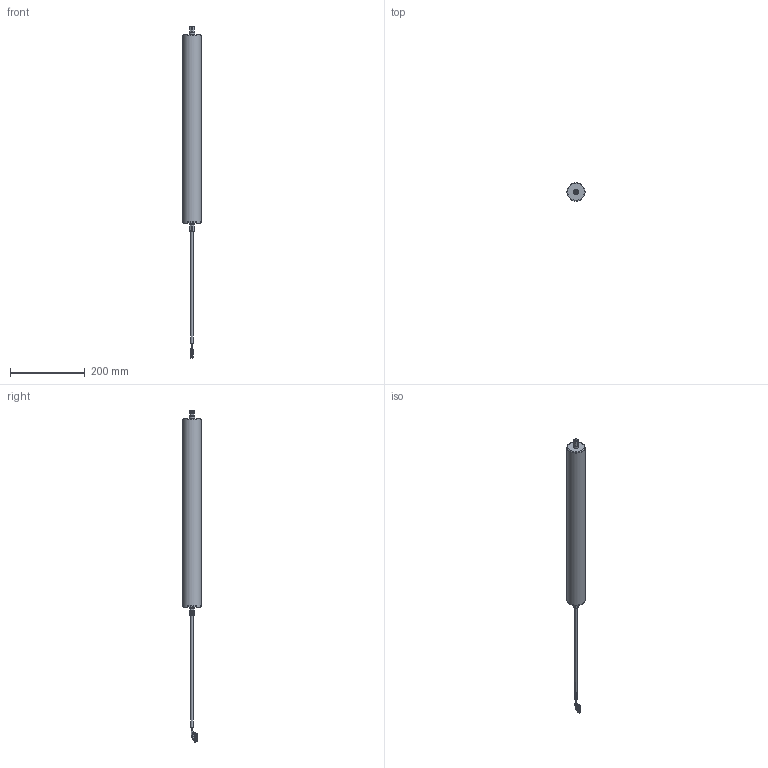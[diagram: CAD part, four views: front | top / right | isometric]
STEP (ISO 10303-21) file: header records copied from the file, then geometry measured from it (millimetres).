
FILE_DESCRIPTION(/* description */ (''),/* implementation_level */ '2;1');
FILE_NAME(/* name */ 'T:\EGセンター\99_各個人\08_\X2\4E2D67517D17\X0\\３Ｄ\3D CAD dwf･stp\X2\30D530A130A430EB\X0\(三宅S依頼分)\PM486FP\PM486FP-()-500-D-024.stp',/* time_stamp */ '2015-03-16T16:09:03+09:00',/* author */ ('UMME'),/* organization */ (''),/* preprocessor_version */ 'ST-DEVELOPER v15.2',/* originating_system */ 'Autodesk Inventor 2014',/* authorisation */ '');
FILE_SCHEMA (('AUTOMOTIVE_DESIGN { 1 0 10303 214 3 1 1 }'));
Length unit declared in the file: millimetre
Products named in the file (3): PM486FP-()-500-D-024; 9Pｹｰﾌﾞﾙ
Bounding box: 48.6 x 48.6 x 891.24 mm (x, y, z)
Volume: 950926.3 mm3; surface area: 98511 mm2
Topology: 2 solids, 2 shells, 248 faces, 651 edges, 431 vertices
Faces by surface type: plane 185, cylinder 41, bspline 11, cone 4, sphere 4, torus 3
Full cylindrical faces by diameter (mm): 1 x9, 6 x2, 15 x2, 48.4 x2, 48.6 x1
Entity records: 9382 total; most frequent: CARTESIAN_POINT 3118, ORIENTED_EDGE 1304, DIRECTION 1149, EDGE_CURVE 628, LINE 429, VECTOR 429, VERTEX_POINT 429, AXIS2_PLACEMENT_3D 360
